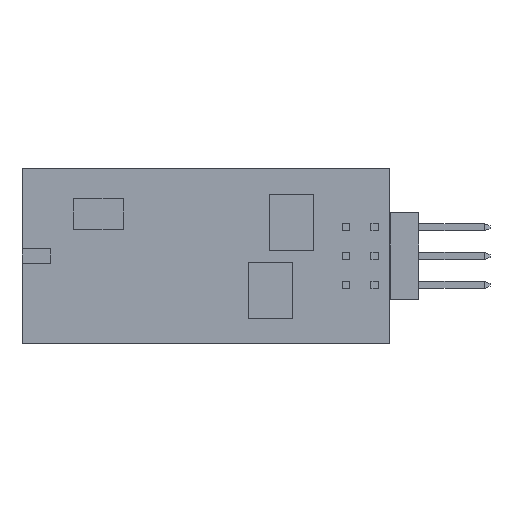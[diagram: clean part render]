
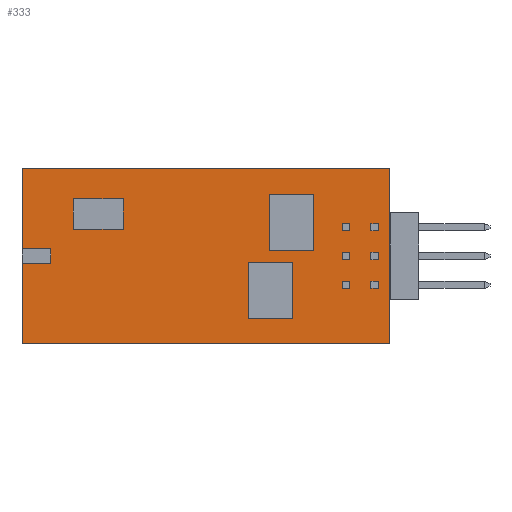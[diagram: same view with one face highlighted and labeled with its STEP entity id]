
A CAD part, left-side view. The second image highlights one B-rep face of the part: STEP entity #333.
In plain terms, the highlighted planar face has unit normal (-1, 0, 0).
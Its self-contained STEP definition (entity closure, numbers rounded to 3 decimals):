
#33=DIRECTION('',(0.,0.,1.));
#34=VECTOR('',#33,7.12);
#35=CARTESIAN_POINT('',(-0.6,36.24,8.38));
#36=LINE('',#35,#34);
#37=DIRECTION('',(0.,0.,1.));
#38=VECTOR('',#37,7.11);
#39=CARTESIAN_POINT('',(-0.6,36.24,0.));
#40=LINE('',#39,#38);
#41=DIRECTION('',(0.,1.,0.));
#42=VECTOR('',#41,2.54);
#43=CARTESIAN_POINT('',(-0.6,33.7,7.11));
#44=LINE('',#43,#42);
#57=DIRECTION('',(0.,-1.,0.));
#58=VECTOR('',#57,2.54);
#59=CARTESIAN_POINT('',(-0.6,36.24,8.38));
#60=LINE('',#59,#58);
#69=DIRECTION('',(0.,0.,-1.));
#70=VECTOR('',#69,1.27);
#71=CARTESIAN_POINT('',(-0.6,33.7,8.38));
#72=LINE('',#71,#70);
#85=DIRECTION('',(0.,1.,0.));
#86=VECTOR('',#85,32.44);
#87=CARTESIAN_POINT('',(-0.6,3.8,15.5));
#88=LINE('',#87,#86);
#97=DIRECTION('',(0.,0.,-1.));
#98=VECTOR('',#97,15.5);
#99=CARTESIAN_POINT('',(-0.6,3.8,15.5));
#100=LINE('',#99,#98);
#161=DIRECTION('',(0.,-1.,0.));
#162=VECTOR('',#161,32.44);
#163=CARTESIAN_POINT('',(-0.6,36.24,0.));
#164=LINE('',#163,#162);
#221=CARTESIAN_POINT('',(-0.6,36.24,0.));
#222=CARTESIAN_POINT('',(-0.6,36.24,7.11));
#223=VERTEX_POINT('',#221);
#224=VERTEX_POINT('',#222);
#229=CARTESIAN_POINT('',(-0.6,36.24,15.5));
#230=VERTEX_POINT('',#229);
#237=CARTESIAN_POINT('',(-0.6,36.24,8.38));
#238=VERTEX_POINT('',#237);
#239=CARTESIAN_POINT('',(-0.6,33.7,8.38));
#240=VERTEX_POINT('',#239);
#241=CARTESIAN_POINT('',(-0.6,33.7,7.11));
#242=VERTEX_POINT('',#241);
#243=CARTESIAN_POINT('',(-0.6,3.8,15.5));
#244=VERTEX_POINT('',#243);
#245=CARTESIAN_POINT('',(-0.6,3.8,0.));
#246=VERTEX_POINT('',#245);
#312=CARTESIAN_POINT('',(-0.6,20.02,7.75));
#313=DIRECTION('',(1.,0.,0.));
#314=DIRECTION('',(0.,1.,0.));
#315=AXIS2_PLACEMENT_3D('',#312,#313,#314);
#316=PLANE('',#315);
#318=ORIENTED_EDGE('',*,*,#317,.F.);
#320=ORIENTED_EDGE('',*,*,#319,.F.);
#322=ORIENTED_EDGE('',*,*,#321,.F.);
#323=ORIENTED_EDGE('',*,*,#278,.T.);
#325=ORIENTED_EDGE('',*,*,#324,.F.);
#327=ORIENTED_EDGE('',*,*,#326,.T.);
#329=ORIENTED_EDGE('',*,*,#328,.F.);
#330=ORIENTED_EDGE('',*,*,#286,.T.);
#331=EDGE_LOOP('',(#318,#320,#322,#323,#325,#327,#329,#330));
#332=FACE_OUTER_BOUND('',#331,.F.);
#333=ADVANCED_FACE('',(#332),#316,.F.);
#278=EDGE_CURVE('',#238,#230,#36,.T.);
#286=EDGE_CURVE('',#223,#224,#40,.T.);
#317=EDGE_CURVE('',#242,#224,#44,.T.);
#319=EDGE_CURVE('',#240,#242,#72,.T.);
#321=EDGE_CURVE('',#238,#240,#60,.T.);
#324=EDGE_CURVE('',#244,#230,#88,.T.);
#326=EDGE_CURVE('',#244,#246,#100,.T.);
#328=EDGE_CURVE('',#223,#246,#164,.T.);
